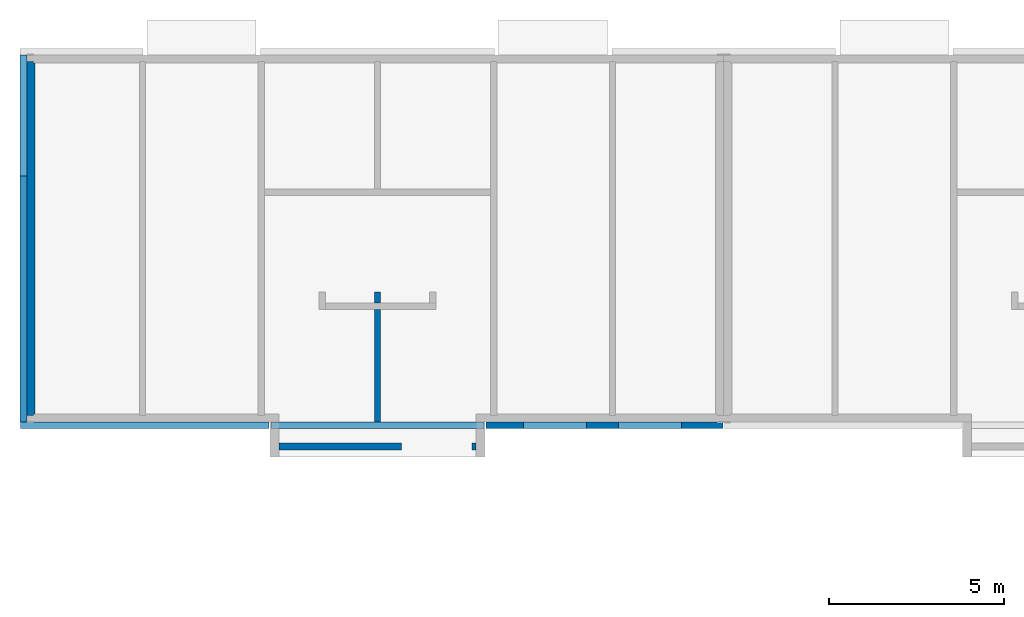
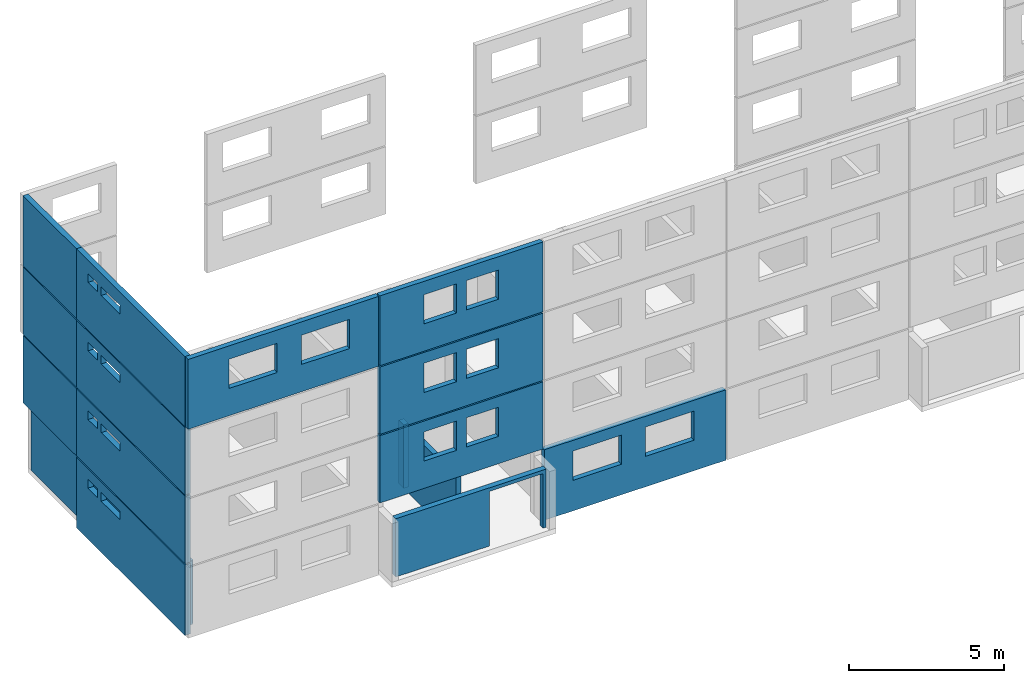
# One storey, part 8 of 15: 16 walls, 19 openings.
"""IFC2X3 building model written with IfcOpenShell, lengths in metres."""

from ifc_helpers import new_model, si_unit, frame, origin, place, context, project, spatial, faceted_brep, element, save


model = new_model("IFC2X3")

# Units and contexts
model_context = context("Model", 3, precision=1e-06, world=origin())
ifc_project = project(units=[si_unit("LENGTHUNIT", "METRE"), si_unit("PLANEANGLEUNIT", "RADIAN")], contexts=[model_context])

# Site, building, storey
site = spatial("IfcSite", under=ifc_project, CompositionType="ELEMENT")
building = spatial("IfcBuilding", under=site, CompositionType="ELEMENT")
storey = spatial("IfcBuildingStorey", under=building, Name="rdc", CompositionType="ELEMENT", Elevation=0.0)

# Walls
placement = place(None, origin())
wall_1_placement = place(placement, frame((10.075000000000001, 0.020038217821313, 0.0), z_axis=(0.0, 0.0, 1.0), x_axis=(0.0, 1.0, 0.0)))
element("IfcWall", 1, at=wall_1_placement, inside=storey, context=model_context, shape_type="Brep", body=[
    faceted_brep([(3.700039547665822, 0.18, 2.5), (3.700039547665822, 0.0, 2.5), (3.700039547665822, 0.0, 0.0), (3.700039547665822, 0.18, 0.0), (3.700039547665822, 0.0, 2.5), (3.380039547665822, 0.0, 2.5), (3.380039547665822, 0.0, 0.0), (3.700039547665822, 0.0, 0.0), (3.380039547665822, 0.0, 2.5), (3.380039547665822, 0.18, 2.5), (3.380039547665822, 0.18, 0.0), (3.380039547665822, 0.0, 0.0), (3.380039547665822, 0.18, 2.5), (3.700039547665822, 0.18, 2.5), (3.700039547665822, 0.18, 0.0), (3.380039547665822, 0.18, 0.0), (3.700039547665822, 0.18, 2.5), (3.380039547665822, 0.18, 2.5), (3.380039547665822, 0.0, 2.5), (3.700039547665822, 0.0, 2.5), (3.700039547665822, 0.18, 0.0), (3.700039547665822, 0.0, 0.0), (3.380039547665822, 0.0, 0.0), (3.380039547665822, 0.18, 0.0)], [[[0, 1, 2, 3]], [[4, 5, 6, 7]], [[8, 9, 10, 11]], [[12, 13, 14, 15]], [[16, 17, 18, 19]], [[20, 21, 22, 23]]]),
])
wall_2_placement = place(placement, frame((10.075000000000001, 0.020038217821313, 0.0), z_axis=(0.0, 0.0, 1.0), x_axis=(0.0, 1.0, 0.0)))
element("IfcWall", 2, at=wall_2_placement, inside=storey, context=model_context, shape_type="Brep", body=[
    faceted_brep([(3.200039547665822, 0.18, 2.5), (3.200039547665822, 0.0, 2.5), (3.200039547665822, 0.0, 0.0), (3.200039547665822, 0.18, 0.0), (3.200039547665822, 0.0, 2.5), (0.0, 0.0, 2.5), (0.0, 0.0, 0.0), (3.200039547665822, 0.0, 0.0), (0.0, 0.0, 2.5), (7.16957565e-07, 0.18, 2.5), (7.16957565e-07, 0.18, 0.0), (0.0, 0.0, 0.0), (7.16957565e-07, 0.18, 2.5), (3.200039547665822, 0.18, 2.5), (3.200039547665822, 0.18, 0.0), (7.16957565e-07, 0.18, 0.0), (3.200039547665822, 0.18, 2.5), (7.16957565e-07, 0.18, 2.5), (0.0, 0.0, 2.5), (3.200039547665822, 0.0, 2.5), (3.200039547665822, 0.18, 0.0), (3.200039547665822, 0.0, 0.0), (0.0, 0.0, 0.0), (7.16957565e-07, 0.18, 0.0)], [[[0, 1, 2, 3]], [[4, 5, 6, 7]], [[8, 9, 10, 11]], [[12, 13, 14, 15]], [[16, 17, 18, 19]], [[20, 21, 22, 23]]]),
])
wall_3_placement = place(placement, frame((-1.1e-14, 7.020077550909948, 5.325000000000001), z_axis=(0.0, 0.0, 1.0), x_axis=(0.0, 1.0, 0.0)))
element("IfcWall", 3, at=wall_3_placement, inside=storey, context=model_context, shape_type="Brep", body=[
    faceted_brep([(0.0, 0.0, 2.65), (0.0, 0.2, 2.65), (0.0, 0.2, 0.0), (0.0, 0.0, 0.0), (0.0, 0.2, 2.65), (3.450000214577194, 0.2, 2.65), (3.450000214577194, 0.2, 0.0), (0.0, 0.2, 0.0), (3.450000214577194, 0.2, 2.65), (3.450000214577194, 0.0, 2.65), (3.450000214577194, 0.0, 0.0), (3.450000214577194, 0.2, 0.0), (3.450000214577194, 0.0, 2.65), (0.0, 0.0, 2.65), (0.0, 0.0, 0.0), (3.450000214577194, 0.0, 0.0), (0.0, 0.0, 2.65), (3.450000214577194, 0.0, 2.65), (3.450000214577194, 0.2, 2.65), (0.0, 0.2, 2.65), (0.0, 0.0, 0.0), (0.0, 0.2, 0.0), (3.450000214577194, 0.2, 0.0), (3.450000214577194, 0.0, 0.0)], [[[0, 1, 2, 3]], [[4, 5, 6, 7]], [[8, 9, 10, 11]], [[12, 13, 14, 15]], [[16, 17, 18, 19]], [[20, 21, 22, 23]]]),
])

# Wall, openings
wall_4_placement = place(placement, frame((-1.1e-14, 0.020077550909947, 5.325000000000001), z_axis=(0.0, 0.0, 1.0), x_axis=(0.0, 1.0, 0.0)))
wall_4 = element("IfcWall", 4, at=wall_4_placement, inside=storey, context=model_context, shape_type="Brep", body=[
    faceted_brep([(0.0, 0.0, 2.65), (0.0, 0.2, 2.65), (0.0, 0.2, 0.0), (0.0, 0.0, 0.0), (0.0, 0.2, 2.65), (7.0, 0.2, 2.65), (7.0, 0.2, 0.0), (0.0, 0.2, 0.0), (7.0, 0.2, 2.65), (7.0, 0.0, 2.65), (7.0, 0.0, 0.0), (7.0, 0.2, 0.0), (7.0, 0.0, 2.65), (0.0, 0.0, 2.65), (0.0, 0.0, 0.0), (7.0, 0.0, 0.0), (0.0, 0.0, 2.65), (7.0, 0.0, 2.65), (7.0, 0.2, 2.65), (0.0, 0.2, 2.65), (0.0, 0.0, 0.0), (0.0, 0.2, 0.0), (7.0, 0.2, 0.0), (7.0, 0.0, 0.0)], [[[0, 1, 2, 3]], [[4, 5, 6, 7]], [[8, 9, 10, 11]], [[12, 13, 14, 15]], [[16, 17, 18, 19]], [[20, 21, 22, 23]]]),
])
opening_1_placement = place(placement, frame((-0.20000000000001, 5.420077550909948, 7.210000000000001), z_axis=(0.0, 0.0, 1.0), x_axis=(0.0, -1.0, 0.0)))
element("IfcOpeningElement", 5, at=opening_1_placement, cuts=wall_4, Name="Opening", context=model_context, shape_type="Brep", body=[
    faceted_brep([(0.0, 0.2, 0.0), (1.2, 0.2, 0.0), (1.2, 0.0, 0.0), (0.0, 0.0, 0.0), (1.2, 0.0, 0.34), (1.2, 0.2, 0.34), (0.0, 0.2, 0.34), (0.0, 0.0, 0.34), (0.0, 0.2, 0.0), (0.0, 0.0, 0.0), (0.0, 0.0, 0.34), (0.0, 0.2, 0.34), (1.2, 0.2, 0.0), (0.0, 0.2, 0.0), (0.0, 0.2, 0.34), (1.2, 0.2, 0.34), (1.2, 0.0, 0.0), (1.2, 0.2, 0.0), (1.2, 0.2, 0.34), (1.2, 0.0, 0.34), (0.0, 0.0, 0.0), (1.2, 0.0, 0.0), (1.2, 0.0, 0.34), (0.0, 0.0, 0.34)], [[[0, 1, 2, 3]], [[4, 5, 6, 7]], [[8, 9, 10, 11]], [[12, 13, 14, 15]], [[16, 17, 18, 19]], [[20, 21, 22, 23]]]),
])
opening_2_placement = place(placement, frame((-0.20000000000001, 6.270077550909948, 7.210000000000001), z_axis=(0.0, 0.0, 1.0), x_axis=(0.0, -1.0, 0.0)))
element("IfcOpeningElement", 6, at=opening_2_placement, cuts=wall_4, Name="Opening", context=model_context, shape_type="Brep", body=[
    faceted_brep([(0.0, 0.2, 0.0), (0.6, 0.2, 0.0), (0.6, 0.0, 0.0), (0.0, 0.0, 0.0), (0.6, 0.0, 0.34), (0.6, 0.2, 0.34), (0.0, 0.2, 0.34), (0.0, 0.0, 0.34), (0.0, 0.2, 0.0), (0.0, 0.0, 0.0), (0.0, 0.0, 0.34), (0.0, 0.2, 0.34), (0.6, 0.2, 0.0), (0.0, 0.2, 0.0), (0.0, 0.2, 0.34), (0.6, 0.2, 0.34), (0.6, 0.0, 0.0), (0.6, 0.2, 0.0), (0.6, 0.2, 0.34), (0.6, 0.0, 0.34), (0.0, 0.0, 0.0), (0.6, 0.0, 0.0), (0.6, 0.0, 0.34), (0.0, 0.0, 0.34)], [[[0, 1, 2, 3]], [[4, 5, 6, 7]], [[8, 9, 10, 11]], [[12, 13, 14, 15]], [[16, 17, 18, 19]], [[20, 21, 22, 23]]]),
])

wall_5_placement = place(placement, frame((6.949999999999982, -0.166922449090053, 2.625000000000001), z_axis=(0.0, 0.0, 1.0), x_axis=(1.0, 0.0, 0.0)))
wall_5 = element("IfcWall", 7, at=wall_5_placement, inside=storey, Name="rdc2", context=model_context, shape_type="Brep", body=[
    faceted_brep([(0.0, 0.0, 2.65), (0.0, 0.187, 2.65), (0.0, 0.187, 0.0), (0.0, 0.0, 0.0), (0.0, 0.187, 2.65), (6.070000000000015, 0.187, 2.65), (6.070000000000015, 0.187, 0.0), (0.0, 0.187, 0.0), (6.070000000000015, 0.187, 2.65), (6.070000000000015, 0.0, 2.65), (6.070000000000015, 0.0, 0.0), (6.070000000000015, 0.187, 0.0), (6.070000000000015, 0.0, 2.65), (0.0, 0.0, 2.65), (0.0, 0.0, 0.0), (6.070000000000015, 0.0, 0.0), (0.0, 0.0, 2.65), (6.070000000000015, 0.0, 2.65), (6.070000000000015, 0.187, 2.65), (0.0, 0.187, 2.65), (0.0, 0.0, 0.0), (0.0, 0.187, 0.0), (6.070000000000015, 0.187, 0.0), (6.070000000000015, 0.0, 0.0)], [[[0, 1, 2, 3]], [[4, 5, 6, 7]], [[8, 9, 10, 11]], [[12, 13, 14, 15]], [[16, 17, 18, 19]], [[20, 21, 22, 23]]]),
])
opening_3_placement = place(placement, frame((8.59999999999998, -0.166922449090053, 3.700000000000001), z_axis=(0.0, 0.0, 1.0), x_axis=(1.0, 0.0, 0.0)))
element("IfcOpeningElement", 8, at=opening_3_placement, cuts=wall_5, Name="Opening", context=model_context, shape_type="Brep", body=[
    faceted_brep([(0.0, 0.187, 0.0), (1.2, 0.187, 0.0), (1.2, 0.0, 0.0), (0.0, 0.0, 0.0), (1.2, 0.0, 1.15), (1.2, 0.187, 1.15), (0.0, 0.187, 1.15), (0.0, 0.0, 1.15), (0.0, 0.187, 0.0), (0.0, 0.0, 0.0), (0.0, 0.0, 1.15), (0.0, 0.187, 1.15), (1.2, 0.187, 0.0), (0.0, 0.187, 0.0), (0.0, 0.187, 1.15), (1.2, 0.187, 1.15), (1.2, 0.0, 0.0), (1.2, 0.187, 0.0), (1.2, 0.187, 1.15), (1.2, 0.0, 1.15), (0.0, 0.0, 0.0), (1.2, 0.0, 0.0), (1.2, 0.0, 1.15), (0.0, 0.0, 1.15)], [[[0, 1, 2, 3]], [[4, 5, 6, 7]], [[8, 9, 10, 11]], [[12, 13, 14, 15]], [[16, 17, 18, 19]], [[20, 21, 22, 23]]]),
])
opening_4_placement = place(placement, frame((10.169999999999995, -0.166922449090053, 3.700000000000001), z_axis=(0.0, 0.0, 1.0), x_axis=(1.0, 0.0, 0.0)))
element("IfcOpeningElement", 9, at=opening_4_placement, cuts=wall_5, Name="Opening", context=model_context, shape_type="Brep", body=[
    faceted_brep([(0.0, 0.187, 0.0), (1.2, 0.187, 0.0), (1.2, 0.0, 0.0), (0.0, 0.0, 0.0), (1.2, 0.0, 1.15), (1.2, 0.187, 1.15), (0.0, 0.187, 1.15), (0.0, 0.0, 1.15), (0.0, 0.187, 0.0), (0.0, 0.0, 0.0), (0.0, 0.0, 1.15), (0.0, 0.187, 1.15), (1.2, 0.187, 0.0), (0.0, 0.187, 0.0), (0.0, 0.187, 1.15), (1.2, 0.187, 1.15), (1.2, 0.0, 0.0), (1.2, 0.187, 0.0), (1.2, 0.187, 1.15), (1.2, 0.0, 1.15), (0.0, 0.0, 0.0), (1.2, 0.0, 0.0), (1.2, 0.0, 1.15), (0.0, 0.0, 1.15)], [[[0, 1, 2, 3]], [[4, 5, 6, 7]], [[8, 9, 10, 11]], [[12, 13, 14, 15]], [[16, 17, 18, 19]], [[20, 21, 22, 23]]]),
])

# Wall, opening
wall_6_placement = place(placement, frame((7.184999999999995, -0.77992223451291, 0.0), z_axis=(0.0, 0.0, 1.0), x_axis=(1.0, 0.0, 0.0)))
wall_6 = element("IfcWall", 10, at=wall_6_placement, inside=storey, Name="rdc entrée", context=model_context, shape_type="Brep", body=[
    faceted_brep([(0.0, 0.0, 2.290000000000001), (0.0, 0.2, 2.290000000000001), (0.0, 0.2, 0.0), (0.0, 0.0, 0.0), (0.0, 0.2, 2.290000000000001), (5.600000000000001, 0.2, 2.290000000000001), (5.600000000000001, 0.2, 0.0), (0.0, 0.2, 0.0), (5.600000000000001, 0.2, 2.290000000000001), (5.600000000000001, 0.0, 2.290000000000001), (5.600000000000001, 0.0, 0.0), (5.600000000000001, 0.2, 0.0), (5.600000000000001, 0.0, 2.290000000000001), (0.0, 0.0, 2.290000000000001), (0.0, 0.0, 0.0), (5.600000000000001, 0.0, 0.0), (0.0, 0.0, 2.290000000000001), (5.600000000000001, 0.0, 2.290000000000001), (5.600000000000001, 0.2, 2.290000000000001), (0.0, 0.2, 2.290000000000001), (0.0, 0.0, 0.0), (0.0, 0.2, 0.0), (5.600000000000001, 0.2, 0.0), (5.600000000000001, 0.0, 0.0)], [[[0, 1, 2, 3]], [[4, 5, 6, 7]], [[8, 9, 10, 11]], [[12, 13, 14, 15]], [[16, 17, 18, 19]], [[20, 21, 22, 23]]]),
])
opening_5_placement = place(placement, frame((10.674999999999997, -0.77992223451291, 0.0), z_axis=(0.0, 0.0, 1.0), x_axis=(1.0, 0.0, 0.0)))
element("IfcOpeningElement", 11, at=opening_5_placement, cuts=wall_6, Name="Opening", context=model_context, shape_type="Brep", body=[
    faceted_brep([(0.0, 0.2, 0.0), (2.0, 0.2, 0.0), (2.0, 0.0, 0.0), (0.0, 0.0, 0.0), (2.0, 0.0, 2.15), (2.0, 0.2, 2.15), (0.0, 0.2, 2.15), (0.0, 0.0, 2.15), (0.0, 0.2, 0.0), (0.0, 0.0, 0.0), (0.0, 0.0, 2.15), (0.0, 0.2, 2.15), (2.0, 0.2, 0.0), (0.0, 0.2, 0.0), (0.0, 0.2, 2.15), (2.0, 0.2, 2.15), (2.0, 0.0, 0.0), (2.0, 0.2, 0.0), (2.0, 0.2, 2.15), (2.0, 0.0, 2.15), (0.0, 0.0, 0.0), (2.0, 0.0, 0.0), (2.0, 0.0, 2.15), (0.0, 0.0, 2.15)], [[[0, 1, 2, 3]], [[4, 5, 6, 7]], [[8, 9, 10, 11]], [[12, 13, 14, 15]], [[16, 17, 18, 19]], [[20, 21, 22, 23]]]),
])

# Wall, openings
wall_7_placement = place(placement, frame((6.949999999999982, -0.166922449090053, 5.325000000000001), z_axis=(0.0, 0.0, 1.0), x_axis=(1.0, 0.0, 0.0)))
wall_7 = element("IfcWall", 12, at=wall_7_placement, inside=storey, Name="rdc2", context=model_context, shape_type="Brep", body=[
    faceted_brep([(0.0, 0.0, 2.65), (0.0, 0.187, 2.65), (0.0, 0.187, 0.0), (0.0, 0.0, 0.0), (0.0, 0.187, 2.65), (6.070000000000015, 0.187, 2.65), (6.070000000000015, 0.187, 0.0), (0.0, 0.187, 0.0), (6.070000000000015, 0.187, 2.65), (6.070000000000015, 0.0, 2.65), (6.070000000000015, 0.0, 0.0), (6.070000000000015, 0.187, 0.0), (6.070000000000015, 0.0, 2.65), (0.0, 0.0, 2.65), (0.0, 0.0, 0.0), (6.070000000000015, 0.0, 0.0), (0.0, 0.0, 2.65), (6.070000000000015, 0.0, 2.65), (6.070000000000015, 0.187, 2.65), (0.0, 0.187, 2.65), (0.0, 0.0, 0.0), (0.0, 0.187, 0.0), (6.070000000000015, 0.187, 0.0), (6.070000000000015, 0.0, 0.0)], [[[0, 1, 2, 3]], [[4, 5, 6, 7]], [[8, 9, 10, 11]], [[12, 13, 14, 15]], [[16, 17, 18, 19]], [[20, 21, 22, 23]]]),
])
opening_6_placement = place(placement, frame((8.59999999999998, -0.166922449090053, 6.400000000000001), z_axis=(0.0, 0.0, 1.0), x_axis=(1.0, 0.0, 0.0)))
element("IfcOpeningElement", 13, at=opening_6_placement, cuts=wall_7, Name="Opening", context=model_context, shape_type="Brep", body=[
    faceted_brep([(0.0, 0.187, 0.0), (1.2, 0.187, 0.0), (1.2, 0.0, 0.0), (0.0, 0.0, 0.0), (1.2, 0.0, 1.15), (1.2, 0.187, 1.15), (0.0, 0.187, 1.15), (0.0, 0.0, 1.15), (0.0, 0.187, 0.0), (0.0, 0.0, 0.0), (0.0, 0.0, 1.15), (0.0, 0.187, 1.15), (1.2, 0.187, 0.0), (0.0, 0.187, 0.0), (0.0, 0.187, 1.15), (1.2, 0.187, 1.15), (1.2, 0.0, 0.0), (1.2, 0.187, 0.0), (1.2, 0.187, 1.15), (1.2, 0.0, 1.15), (0.0, 0.0, 0.0), (1.2, 0.0, 0.0), (1.2, 0.0, 1.15), (0.0, 0.0, 1.15)], [[[0, 1, 2, 3]], [[4, 5, 6, 7]], [[8, 9, 10, 11]], [[12, 13, 14, 15]], [[16, 17, 18, 19]], [[20, 21, 22, 23]]]),
])
opening_7_placement = place(placement, frame((10.169999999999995, -0.166922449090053, 6.400000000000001), z_axis=(0.0, 0.0, 1.0), x_axis=(1.0, 0.0, 0.0)))
element("IfcOpeningElement", 14, at=opening_7_placement, cuts=wall_7, Name="Opening", context=model_context, shape_type="Brep", body=[
    faceted_brep([(0.0, 0.187, 0.0), (1.2, 0.187, 0.0), (1.2, 0.0, 0.0), (0.0, 0.0, 0.0), (1.2, 0.0, 1.15), (1.2, 0.187, 1.15), (0.0, 0.187, 1.15), (0.0, 0.0, 1.15), (0.0, 0.187, 0.0), (0.0, 0.0, 0.0), (0.0, 0.0, 1.15), (0.0, 0.187, 1.15), (1.2, 0.187, 0.0), (0.0, 0.187, 0.0), (0.0, 0.187, 1.15), (1.2, 0.187, 1.15), (1.2, 0.0, 0.0), (1.2, 0.187, 0.0), (1.2, 0.187, 1.15), (1.2, 0.0, 1.15), (0.0, 0.0, 0.0), (1.2, 0.0, 0.0), (1.2, 0.0, 1.15), (0.0, 0.0, 1.15)], [[[0, 1, 2, 3]], [[4, 5, 6, 7]], [[8, 9, 10, 11]], [[12, 13, 14, 15]], [[16, 17, 18, 19]], [[20, 21, 22, 23]]]),
])

wall_8_placement = place(placement, frame((-1.1e-14, 0.020077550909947, -0.199999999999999), z_axis=(0.0, 0.0, 1.0), x_axis=(0.0, 1.0, 0.0)))
wall_8 = element("IfcWall", 15, at=wall_8_placement, inside=storey, context=model_context, shape_type="Brep", body=[
    faceted_brep([(0.0, 0.0, 2.775), (0.0, 0.2, 2.775), (0.0, 0.2, 0.0), (0.0, 0.0, 0.0), (0.0, 0.2, 2.775), (7.0, 0.2, 2.775), (7.0, 0.2, 0.0), (0.0, 0.2, 0.0), (7.0, 0.2, 2.775), (7.0, 0.0, 2.775), (7.0, 0.0, 0.0), (7.0, 0.2, 0.0), (7.0, 0.0, 2.775), (0.0, 0.0, 2.775), (0.0, 0.0, 0.0), (7.0, 0.0, 0.0), (0.0, 0.0, 2.775), (7.0, 0.0, 2.775), (7.0, 0.2, 2.775), (0.0, 0.2, 2.775), (0.0, 0.0, 0.0), (0.0, 0.2, 0.0), (7.0, 0.2, 0.0), (7.0, 0.0, 0.0)], [[[0, 1, 2, 3]], [[4, 5, 6, 7]], [[8, 9, 10, 11]], [[12, 13, 14, 15]], [[16, 17, 18, 19]], [[20, 21, 22, 23]]]),
])
opening_8_placement = place(placement, frame((-0.20000000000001, 5.420077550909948, 1.810000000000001), z_axis=(0.0, 0.0, 1.0), x_axis=(0.0, -1.0, 0.0)))
element("IfcOpeningElement", 16, at=opening_8_placement, cuts=wall_8, Name="Opening", context=model_context, shape_type="Brep", body=[
    faceted_brep([(0.0, 0.2, 0.0), (1.2, 0.2, 0.0), (1.2, 0.0, 0.0), (0.0, 0.0, 0.0), (1.2, 0.0, 0.34), (1.2, 0.2, 0.34), (0.0, 0.2, 0.34), (0.0, 0.0, 0.34), (0.0, 0.2, 0.0), (0.0, 0.0, 0.0), (0.0, 0.0, 0.34), (0.0, 0.2, 0.34), (1.2, 0.2, 0.0), (0.0, 0.2, 0.0), (0.0, 0.2, 0.34), (1.2, 0.2, 0.34), (1.2, 0.0, 0.0), (1.2, 0.2, 0.0), (1.2, 0.2, 0.34), (1.2, 0.0, 0.34), (0.0, 0.0, 0.0), (1.2, 0.0, 0.0), (1.2, 0.0, 0.34), (0.0, 0.0, 0.34)], [[[0, 1, 2, 3]], [[4, 5, 6, 7]], [[8, 9, 10, 11]], [[12, 13, 14, 15]], [[16, 17, 18, 19]], [[20, 21, 22, 23]]]),
])
opening_9_placement = place(placement, frame((-0.20000000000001, 6.270077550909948, 1.810000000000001), z_axis=(0.0, 0.0, 1.0), x_axis=(0.0, -1.0, 0.0)))
element("IfcOpeningElement", 17, at=opening_9_placement, cuts=wall_8, Name="Opening", context=model_context, shape_type="Brep", body=[
    faceted_brep([(0.0, 0.2, 0.0), (0.6, 0.2, 0.0), (0.6, 0.0, 0.0), (0.0, 0.0, 0.0), (0.6, 0.0, 0.34), (0.6, 0.2, 0.34), (0.0, 0.2, 0.34), (0.0, 0.0, 0.34), (0.0, 0.2, 0.0), (0.0, 0.0, 0.0), (0.0, 0.0, 0.34), (0.0, 0.2, 0.34), (0.6, 0.2, 0.0), (0.0, 0.2, 0.0), (0.0, 0.2, 0.34), (0.6, 0.2, 0.34), (0.6, 0.0, 0.0), (0.6, 0.2, 0.0), (0.6, 0.2, 0.34), (0.6, 0.0, 0.34), (0.0, 0.0, 0.0), (0.6, 0.0, 0.0), (0.6, 0.0, 0.34), (0.0, 0.0, 0.34)], [[[0, 1, 2, 3]], [[4, 5, 6, 7]], [[8, 9, 10, 11]], [[12, 13, 14, 15]], [[16, 17, 18, 19]], [[20, 21, 22, 23]]]),
])

wall_9_placement = place(placement, frame((6.949999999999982, -0.166922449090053, 8.025000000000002), z_axis=(0.0, 0.0, 1.0), x_axis=(1.0, 0.0, 0.0)))
wall_9 = element("IfcWall", 18, at=wall_9_placement, inside=storey, Name="rdc2", context=model_context, shape_type="Brep", body=[
    faceted_brep([(0.0, 0.0, 2.75), (0.0, 0.187, 2.75), (0.0, 0.187, 0.0), (0.0, 0.0, 0.0), (0.0, 0.187, 2.75), (6.070000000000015, 0.187, 2.75), (6.070000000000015, 0.187, 0.0), (0.0, 0.187, 0.0), (6.070000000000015, 0.187, 2.75), (6.070000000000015, 0.0, 2.75), (6.070000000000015, 0.0, 0.0), (6.070000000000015, 0.187, 0.0), (6.070000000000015, 0.0, 2.75), (0.0, 0.0, 2.75), (0.0, 0.0, 0.0), (6.070000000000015, 0.0, 0.0), (0.0, 0.0, 2.75), (6.070000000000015, 0.0, 2.75), (6.070000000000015, 0.187, 2.75), (0.0, 0.187, 2.75), (0.0, 0.0, 0.0), (0.0, 0.187, 0.0), (6.070000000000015, 0.187, 0.0), (6.070000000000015, 0.0, 0.0)], [[[0, 1, 2, 3]], [[4, 5, 6, 7]], [[8, 9, 10, 11]], [[12, 13, 14, 15]], [[16, 17, 18, 19]], [[20, 21, 22, 23]]]),
])
opening_10_placement = place(placement, frame((10.169999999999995, -0.166922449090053, 9.100000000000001), z_axis=(0.0, 0.0, 1.0), x_axis=(1.0, 0.0, 0.0)))
element("IfcOpeningElement", 19, at=opening_10_placement, cuts=wall_9, Name="Opening", context=model_context, shape_type="Brep", body=[
    faceted_brep([(0.0, 0.187, 0.0), (1.2, 0.187, 0.0), (1.2, 0.0, 0.0), (0.0, 0.0, 0.0), (1.2, 0.0, 1.15), (1.2, 0.187, 1.15), (0.0, 0.187, 1.15), (0.0, 0.0, 1.15), (0.0, 0.187, 0.0), (0.0, 0.0, 0.0), (0.0, 0.0, 1.15), (0.0, 0.187, 1.15), (1.2, 0.187, 0.0), (0.0, 0.187, 0.0), (0.0, 0.187, 1.15), (1.2, 0.187, 1.15), (1.2, 0.0, 0.0), (1.2, 0.187, 0.0), (1.2, 0.187, 1.15), (1.2, 0.0, 1.15), (0.0, 0.0, 0.0), (1.2, 0.0, 0.0), (1.2, 0.0, 1.15), (0.0, 0.0, 1.15)], [[[0, 1, 2, 3]], [[4, 5, 6, 7]], [[8, 9, 10, 11]], [[12, 13, 14, 15]], [[16, 17, 18, 19]], [[20, 21, 22, 23]]]),
])
opening_11_placement = place(placement, frame((8.59999999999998, -0.166922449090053, 9.100000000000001), z_axis=(0.0, 0.0, 1.0), x_axis=(1.0, 0.0, 0.0)))
element("IfcOpeningElement", 20, at=opening_11_placement, cuts=wall_9, Name="Opening", context=model_context, shape_type="Brep", body=[
    faceted_brep([(0.0, 0.187, 0.0), (1.2, 0.187, 0.0), (1.2, 0.0, 0.0), (0.0, 0.0, 0.0), (1.2, 0.0, 1.15), (1.2, 0.187, 1.15), (0.0, 0.187, 1.15), (0.0, 0.0, 1.15), (0.0, 0.187, 0.0), (0.0, 0.0, 0.0), (0.0, 0.0, 1.15), (0.0, 0.187, 1.15), (1.2, 0.187, 0.0), (0.0, 0.187, 0.0), (0.0, 0.187, 1.15), (1.2, 0.187, 1.15), (1.2, 0.0, 0.0), (1.2, 0.187, 0.0), (1.2, 0.187, 1.15), (1.2, 0.0, 1.15), (0.0, 0.0, 0.0), (1.2, 0.0, 0.0), (1.2, 0.0, 1.15), (0.0, 0.0, 1.15)], [[[0, 1, 2, 3]], [[4, 5, 6, 7]], [[8, 9, 10, 11]], [[12, 13, 14, 15]], [[16, 17, 18, 19]], [[20, 21, 22, 23]]]),
])

wall_10_placement = place(placement, frame((-1.1e-14, 0.020077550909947, 2.625000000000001), z_axis=(0.0, 0.0, 1.0), x_axis=(0.0, 1.0, 0.0)))
wall_10 = element("IfcWall", 21, at=wall_10_placement, inside=storey, context=model_context, shape_type="Brep", body=[
    faceted_brep([(0.0, 0.0, 2.65), (0.0, 0.2, 2.65), (0.0, 0.2, 0.0), (0.0, 0.0, 0.0), (0.0, 0.2, 2.65), (7.0, 0.2, 2.65), (7.0, 0.2, 0.0), (0.0, 0.2, 0.0), (7.0, 0.2, 2.65), (7.0, 0.0, 2.65), (7.0, 0.0, 0.0), (7.0, 0.2, 0.0), (7.0, 0.0, 2.65), (0.0, 0.0, 2.65), (0.0, 0.0, 0.0), (7.0, 0.0, 0.0), (0.0, 0.0, 2.65), (7.0, 0.0, 2.65), (7.0, 0.2, 2.65), (0.0, 0.2, 2.65), (0.0, 0.0, 0.0), (0.0, 0.2, 0.0), (7.0, 0.2, 0.0), (7.0, 0.0, 0.0)], [[[0, 1, 2, 3]], [[4, 5, 6, 7]], [[8, 9, 10, 11]], [[12, 13, 14, 15]], [[16, 17, 18, 19]], [[20, 21, 22, 23]]]),
])
opening_12_placement = place(placement, frame((-0.20000000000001, 5.420077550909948, 4.510000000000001), z_axis=(0.0, 0.0, 1.0), x_axis=(0.0, -1.0, 0.0)))
element("IfcOpeningElement", 22, at=opening_12_placement, cuts=wall_10, Name="Opening", context=model_context, shape_type="Brep", body=[
    faceted_brep([(0.0, 0.2, 0.0), (1.2, 0.2, 0.0), (1.2, 0.0, 0.0), (0.0, 0.0, 0.0), (1.2, 0.0, 0.34), (1.2, 0.2, 0.34), (0.0, 0.2, 0.34), (0.0, 0.0, 0.34), (0.0, 0.2, 0.0), (0.0, 0.0, 0.0), (0.0, 0.0, 0.34), (0.0, 0.2, 0.34), (1.2, 0.2, 0.0), (0.0, 0.2, 0.0), (0.0, 0.2, 0.34), (1.2, 0.2, 0.34), (1.2, 0.0, 0.0), (1.2, 0.2, 0.0), (1.2, 0.2, 0.34), (1.2, 0.0, 0.34), (0.0, 0.0, 0.0), (1.2, 0.0, 0.0), (1.2, 0.0, 0.34), (0.0, 0.0, 0.34)], [[[0, 1, 2, 3]], [[4, 5, 6, 7]], [[8, 9, 10, 11]], [[12, 13, 14, 15]], [[16, 17, 18, 19]], [[20, 21, 22, 23]]]),
])
opening_13_placement = place(placement, frame((-0.20000000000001, 6.270077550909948, 4.510000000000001), z_axis=(0.0, 0.0, 1.0), x_axis=(0.0, -1.0, 0.0)))
element("IfcOpeningElement", 23, at=opening_13_placement, cuts=wall_10, Name="Opening", context=model_context, shape_type="Brep", body=[
    faceted_brep([(0.0, 0.2, 0.0), (0.6, 0.2, 0.0), (0.6, 0.0, 0.0), (0.0, 0.0, 0.0), (0.6, 0.0, 0.34), (0.6, 0.2, 0.34), (0.0, 0.2, 0.34), (0.0, 0.0, 0.34), (0.0, 0.2, 0.0), (0.0, 0.0, 0.0), (0.0, 0.0, 0.34), (0.0, 0.2, 0.34), (0.6, 0.2, 0.0), (0.0, 0.2, 0.0), (0.0, 0.2, 0.34), (0.6, 0.2, 0.34), (0.6, 0.0, 0.0), (0.6, 0.2, 0.0), (0.6, 0.2, 0.34), (0.6, 0.0, 0.34), (0.0, 0.0, 0.0), (0.6, 0.0, 0.0), (0.6, 0.0, 0.34), (0.0, 0.0, 0.34)], [[[0, 1, 2, 3]], [[4, 5, 6, 7]], [[8, 9, 10, 11]], [[12, 13, 14, 15]], [[16, 17, 18, 19]], [[20, 21, 22, 23]]]),
])

# Wall
wall_11_placement = place(placement, frame((-1.1e-14, 7.020077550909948, 2.625000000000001), z_axis=(0.0, 0.0, 1.0), x_axis=(0.0, 1.0, 0.0)))
element("IfcWall", 24, at=wall_11_placement, inside=storey, context=model_context, shape_type="Brep", body=[
    faceted_brep([(0.0, 0.0, 2.65), (0.0, 0.2, 2.65), (0.0, 0.2, 0.0), (0.0, 0.0, 0.0), (0.0, 0.2, 2.65), (3.450000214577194, 0.2, 2.65), (3.450000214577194, 0.2, 0.0), (0.0, 0.2, 0.0), (3.450000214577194, 0.2, 2.65), (3.450000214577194, 0.0, 2.65), (3.450000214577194, 0.0, 0.0), (3.450000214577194, 0.2, 0.0), (3.450000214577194, 0.0, 2.65), (0.0, 0.0, 2.65), (0.0, 0.0, 0.0), (3.450000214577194, 0.0, 0.0), (0.0, 0.0, 2.65), (3.450000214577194, 0.0, 2.65), (3.450000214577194, 0.2, 2.65), (0.0, 0.2, 2.65), (0.0, 0.0, 0.0), (0.0, 0.2, 0.0), (3.450000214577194, 0.2, 0.0), (3.450000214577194, 0.0, 0.0)], [[[0, 1, 2, 3]], [[4, 5, 6, 7]], [[8, 9, 10, 11]], [[12, 13, 14, 15]], [[16, 17, 18, 19]], [[20, 21, 22, 23]]]),
])

# Wall, openings
wall_12_placement = place(placement, frame((-1.1e-14, 0.020077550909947, 8.025000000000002), z_axis=(0.0, 0.0, 1.0), x_axis=(0.0, 1.0, 0.0)))
wall_12 = element("IfcWall", 25, at=wall_12_placement, inside=storey, context=model_context, shape_type="Brep", body=[
    faceted_brep([(0.0, 0.0, 2.75), (0.0, 0.2, 2.75), (0.0, 0.2, 0.0), (0.0, 0.0, 0.0), (0.0, 0.2, 2.75), (7.0, 0.2, 2.75), (7.0, 0.2, 0.0), (0.0, 0.2, 0.0), (7.0, 0.2, 2.75), (7.0, 0.0, 2.75), (7.0, 0.0, 0.0), (7.0, 0.2, 0.0), (7.0, 0.0, 2.75), (0.0, 0.0, 2.75), (0.0, 0.0, 0.0), (7.0, 0.0, 0.0), (0.0, 0.0, 2.75), (7.0, 0.0, 2.75), (7.0, 0.2, 2.75), (0.0, 0.2, 2.75), (0.0, 0.0, 0.0), (0.0, 0.2, 0.0), (7.0, 0.2, 0.0), (7.0, 0.0, 0.0)], [[[0, 1, 2, 3]], [[4, 5, 6, 7]], [[8, 9, 10, 11]], [[12, 13, 14, 15]], [[16, 17, 18, 19]], [[20, 21, 22, 23]]]),
])
opening_14_placement = place(placement, frame((-0.20000000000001, 6.270077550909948, 9.910000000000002), z_axis=(0.0, 0.0, 1.0), x_axis=(0.0, -1.0, 0.0)))
element("IfcOpeningElement", 26, at=opening_14_placement, cuts=wall_12, Name="Opening", context=model_context, shape_type="Brep", body=[
    faceted_brep([(0.0, 0.2, 0.0), (0.6, 0.2, 0.0), (0.6, 0.0, 0.0), (0.0, 0.0, 0.0), (0.6, 0.0, 0.34), (0.6, 0.2, 0.34), (0.0, 0.2, 0.34), (0.0, 0.0, 0.34), (0.0, 0.2, 0.0), (0.0, 0.0, 0.0), (0.0, 0.0, 0.34), (0.0, 0.2, 0.34), (0.6, 0.2, 0.0), (0.0, 0.2, 0.0), (0.0, 0.2, 0.34), (0.6, 0.2, 0.34), (0.6, 0.0, 0.0), (0.6, 0.2, 0.0), (0.6, 0.2, 0.34), (0.6, 0.0, 0.34), (0.0, 0.0, 0.0), (0.6, 0.0, 0.0), (0.6, 0.0, 0.34), (0.0, 0.0, 0.34)], [[[0, 1, 2, 3]], [[4, 5, 6, 7]], [[8, 9, 10, 11]], [[12, 13, 14, 15]], [[16, 17, 18, 19]], [[20, 21, 22, 23]]]),
])
opening_15_placement = place(placement, frame((-0.20000000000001, 5.420077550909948, 9.910000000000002), z_axis=(0.0, 0.0, 1.0), x_axis=(0.0, -1.0, 0.0)))
element("IfcOpeningElement", 27, at=opening_15_placement, cuts=wall_12, Name="Opening", context=model_context, shape_type="Brep", body=[
    faceted_brep([(0.0, 0.2, 0.0), (1.2, 0.2, 0.0), (1.2, 0.0, 0.0), (0.0, 0.0, 0.0), (1.2, 0.0, 0.34), (1.2, 0.2, 0.34), (0.0, 0.2, 0.34), (0.0, 0.0, 0.34), (0.0, 0.2, 0.0), (0.0, 0.0, 0.0), (0.0, 0.0, 0.34), (0.0, 0.2, 0.34), (1.2, 0.2, 0.0), (0.0, 0.2, 0.0), (0.0, 0.2, 0.34), (1.2, 0.2, 0.34), (1.2, 0.0, 0.0), (1.2, 0.2, 0.0), (1.2, 0.2, 0.34), (1.2, 0.0, 0.34), (0.0, 0.0, 0.0), (1.2, 0.0, 0.0), (1.2, 0.0, 0.34), (0.0, 0.0, 0.34)], [[[0, 1, 2, 3]], [[4, 5, 6, 7]], [[8, 9, 10, 11]], [[12, 13, 14, 15]], [[16, 17, 18, 19]], [[20, 21, 22, 23]]]),
])

# Walls
wall_13_placement = place(placement, frame((-1.1e-14, 7.020077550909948, 8.025000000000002), z_axis=(0.0, 0.0, 1.0), x_axis=(0.0, 1.0, 0.0)))
element("IfcWall", 28, at=wall_13_placement, inside=storey, context=model_context, shape_type="Brep", body=[
    faceted_brep([(0.0, 0.0, 2.749999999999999), (0.0, 0.2, 2.749999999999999), (0.0, 0.2, 0.0), (0.0, 0.0, 0.0), (0.0, 0.2, 2.749999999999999), (3.450000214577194, 0.2, 2.749999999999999), (3.450000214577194, 0.2, 0.0), (0.0, 0.2, 0.0), (3.450000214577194, 0.2, 2.749999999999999), (3.450000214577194, 0.0, 2.749999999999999), (3.450000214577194, 0.0, 0.0), (3.450000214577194, 0.2, 0.0), (3.450000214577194, 0.0, 2.749999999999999), (0.0, 0.0, 2.749999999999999), (0.0, 0.0, 0.0), (3.450000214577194, 0.0, 0.0), (0.0, 0.0, 2.749999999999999), (3.450000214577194, 0.0, 2.749999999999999), (3.450000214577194, 0.2, 2.749999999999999), (0.0, 0.2, 2.749999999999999), (0.0, 0.0, 0.0), (0.0, 0.2, 0.0), (3.450000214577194, 0.2, 0.0), (3.450000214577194, 0.0, 0.0)], [[[0, 1, 2, 3]], [[4, 5, 6, 7]], [[8, 9, 10, 11]], [[12, 13, 14, 15]], [[16, 17, 18, 19]], [[20, 21, 22, 23]]]),
])
wall_14_placement = place(placement, frame((-4e-15, 10.29007776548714, 0.0), z_axis=(0.0, 0.0, 1.0), x_axis=(0.0, -1.0, 0.0)))
element("IfcWall", 29, at=wall_14_placement, inside=storey, context=model_context, shape_type="Brep", body=[
    faceted_brep([(0.04, 0.18, 2.5), (0.04, 0.22, 2.5), (0.04, 0.22, 0.0), (0.04, 0.18, 0.0), (0.04, 0.22, 2.5), (0.05, 0.22, 2.5), (0.05, 0.22, 0.0), (0.04, 0.22, 0.0), (0.05, 0.22, 2.5), (0.05, 0.23, 2.5), (0.05, 0.23, 0.0), (0.05, 0.22, 0.0), (0.05, 0.23, 2.5), (10.04000021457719, 0.23, 2.5), (10.04000021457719, 0.23, 0.0), (0.05, 0.23, 0.0), (10.04000021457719, 0.23, 2.5), (10.04000021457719, 0.22, 2.5), (10.04000021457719, 0.22, 0.0), (10.04000021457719, 0.23, 0.0), (10.04000021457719, 0.22, 2.5), (10.05000021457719, 0.22, 2.5), (10.05000021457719, 0.22, 0.0), (10.04000021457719, 0.22, 0.0), (10.05000021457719, 0.22, 2.5), (10.05000021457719, 0.18, 2.5), (10.05000021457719, 0.18, 0.0), (10.05000021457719, 0.22, 0.0), (10.05000021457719, 0.18, 2.5), (10.090000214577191, 0.18, 2.5), (10.090000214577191, 0.18, 0.0), (10.05000021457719, 0.18, 0.0), (10.090000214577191, 0.18, 2.5), (10.090000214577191, 0.0, 2.5), (10.090000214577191, 0.0, 0.0), (10.090000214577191, 0.18, 0.0), (10.090000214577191, 0.0, 2.5), (0.0, 0.0, 2.5), (0.0, 0.0, 0.0), (10.090000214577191, 0.0, 0.0), (0.0, 0.0, 2.5), (0.0, 0.18, 2.5), (0.0, 0.18, 0.0), (0.0, 0.0, 0.0), (0.0, 0.18, 2.5), (0.04, 0.18, 2.5), (0.04, 0.18, 0.0), (0.0, 0.18, 0.0), (0.04, 0.18, 2.5), (0.0, 0.18, 2.5), (0.0, 0.0, 2.5), (10.090000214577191, 0.0, 2.5), (10.090000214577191, 0.18, 2.5), (10.05000021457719, 0.18, 2.5), (10.05000021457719, 0.22, 2.5), (10.04000021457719, 0.22, 2.5), (10.04000021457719, 0.23, 2.5), (0.05, 0.23, 2.5), (0.05, 0.22, 2.5), (0.04, 0.22, 2.5), (0.04, 0.18, 0.0), (0.04, 0.22, 0.0), (0.05, 0.22, 0.0), (0.05, 0.23, 0.0), (10.04000021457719, 0.23, 0.0), (10.04000021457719, 0.22, 0.0), (10.05000021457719, 0.22, 0.0), (10.05000021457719, 0.18, 0.0), (10.090000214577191, 0.18, 0.0), (10.090000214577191, 0.0, 0.0), (0.0, 0.0, 0.0), (0.0, 0.18, 0.0)], [[[0, 1, 2, 3]], [[4, 5, 6, 7]], [[8, 9, 10, 11]], [[12, 13, 14, 15]], [[16, 17, 18, 19]], [[20, 21, 22, 23]], [[24, 25, 26, 27]], [[28, 29, 30, 31]], [[32, 33, 34, 35]], [[36, 37, 38, 39]], [[40, 41, 42, 43]], [[44, 45, 46, 47]], [[48, 49, 50, 51, 52, 53, 54, 55, 56, 57, 58, 59]], [[60, 61, 62, 63, 64, 65, 66, 67, 68, 69, 70, 71]]]),
])

# Wall, openings
wall_15_placement = place(placement, frame((13.07, -0.166837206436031, -0.2), z_axis=(0.0, 0.0, 1.0), x_axis=(1.0, 0.0, 0.0)))
wall_15 = element("IfcWall", 30, at=wall_15_placement, inside=storey, Name="rdc1", context=model_context, shape_type="Brep", body=[
    faceted_brep([(0.0, 0.0, 2.775), (0.0, 0.187, 2.775), (0.0, 0.187, 0.0), (0.0, 0.0, 0.0), (0.0, 0.187, 2.775), (6.754999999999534, 0.187, 2.775), (6.754999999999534, 0.187, 0.0), (0.0, 0.187, 0.0), (6.754999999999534, 0.187, 2.775), (6.754999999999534, 0.0, 2.775), (6.754999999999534, 0.0, 0.0), (6.754999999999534, 0.187, 0.0), (6.754999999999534, 0.0, 2.775), (0.0, 0.0, 2.775), (0.0, 0.0, 0.0), (6.754999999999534, 0.0, 0.0), (0.0, 0.0, 2.775), (6.754999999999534, 0.0, 2.775), (6.754999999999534, 0.187, 2.775), (0.0, 0.187, 2.775), (0.0, 0.0, 0.0), (0.0, 0.187, 0.0), (6.754999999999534, 0.187, 0.0), (6.754999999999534, 0.0, 0.0)], [[[0, 1, 2, 3]], [[4, 5, 6, 7]], [[8, 9, 10, 11]], [[12, 13, 14, 15]], [[16, 17, 18, 19]], [[20, 21, 22, 23]]]),
])
opening_16_placement = place(placement, frame((14.144999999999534, -0.166837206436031, 1.0), z_axis=(0.0, 0.0, 1.0), x_axis=(1.0, 0.0, 0.0)))
element("IfcOpeningElement", 31, at=opening_16_placement, cuts=wall_15, Name="Opening", context=model_context, shape_type="Brep", body=[
    faceted_brep([(0.0, 0.187, 0.0), (1.8, 0.187, 0.0), (1.8, 0.0, 0.0), (0.0, 0.0, 0.0), (1.8, 0.0, 1.15), (1.8, 0.187, 1.15), (0.0, 0.187, 1.15), (0.0, 0.0, 1.15), (0.0, 0.187, 0.0), (0.0, 0.0, 0.0), (0.0, 0.0, 1.15), (0.0, 0.187, 1.15), (1.8, 0.187, 0.0), (0.0, 0.187, 0.0), (0.0, 0.187, 1.15), (1.8, 0.187, 1.15), (1.8, 0.0, 0.0), (1.8, 0.187, 0.0), (1.8, 0.187, 1.15), (1.8, 0.0, 1.15), (0.0, 0.0, 0.0), (1.8, 0.0, 0.0), (1.8, 0.0, 1.15), (0.0, 0.0, 1.15)], [[[0, 1, 2, 3]], [[4, 5, 6, 7]], [[8, 9, 10, 11]], [[12, 13, 14, 15]], [[16, 17, 18, 19]], [[20, 21, 22, 23]]]),
])
opening_17_placement = place(placement, frame((16.844999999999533, -0.166837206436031, 1.0), z_axis=(0.0, 0.0, 1.0), x_axis=(1.0, 0.0, 0.0)))
element("IfcOpeningElement", 32, at=opening_17_placement, cuts=wall_15, Name="Opening", context=model_context, shape_type="Brep", body=[
    faceted_brep([(0.0, 0.187, 0.0), (1.8, 0.187, 0.0), (1.8, 0.0, 0.0), (0.0, 0.0, 0.0), (1.8, 0.0, 1.15), (1.8, 0.187, 1.15), (0.0, 0.187, 1.15), (0.0, 0.0, 1.15), (0.0, 0.187, 0.0), (0.0, 0.0, 0.0), (0.0, 0.0, 1.15), (0.0, 0.187, 1.15), (1.8, 0.187, 0.0), (0.0, 0.187, 0.0), (0.0, 0.187, 1.15), (1.8, 0.187, 1.15), (1.8, 0.0, 0.0), (1.8, 0.187, 0.0), (1.8, 0.187, 1.15), (1.8, 0.0, 1.15), (0.0, 0.0, 0.0), (1.8, 0.0, 0.0), (1.8, 0.0, 1.15), (0.0, 0.0, 1.15)], [[[0, 1, 2, 3]], [[4, 5, 6, 7]], [[8, 9, 10, 11]], [[12, 13, 14, 15]], [[16, 17, 18, 19]], [[20, 21, 22, 23]]]),
])

wall_16_placement = place(placement, frame((-0.187000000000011, -0.166922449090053, 8.025000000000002), z_axis=(0.0, 0.0, 1.0), x_axis=(1.0, 0.0, 0.0)))
wall_16 = element("IfcWall", 33, at=wall_16_placement, inside=storey, context=model_context, shape_type="Brep", body=[
    faceted_brep([(0.0, 0.0, 2.75), (0.0, 0.187, 2.75), (0.0, 0.187, 0.0), (0.0, 0.0, 0.0), (0.0, 0.187, 2.75), (7.087000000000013, 0.187, 2.75), (7.087000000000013, 0.187, 0.0), (0.0, 0.187, 0.0), (7.087000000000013, 0.187, 2.75), (7.087000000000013, 0.0, 2.75), (7.087000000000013, 0.0, 0.0), (7.087000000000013, 0.187, 0.0), (7.087000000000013, 0.0, 2.75), (0.0, 0.0, 2.75), (0.0, 0.0, 0.0), (7.087000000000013, 0.0, 0.0), (0.0, 0.0, 2.75), (7.087000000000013, 0.0, 2.75), (7.087000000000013, 0.187, 2.75), (0.0, 0.187, 2.75), (0.0, 0.0, 0.0), (0.0, 0.187, 0.0), (7.087000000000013, 0.187, 0.0), (7.087000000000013, 0.0, 0.0)], [[[0, 1, 2, 3]], [[4, 5, 6, 7]], [[8, 9, 10, 11]], [[12, 13, 14, 15]], [[16, 17, 18, 19]], [[20, 21, 22, 23]]]),
])
opening_18_placement = place(placement, frame((1.324999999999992, -0.166922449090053, 9.100000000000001), z_axis=(0.0, 0.0, 1.0), x_axis=(1.0, 0.0, 0.0)))
element("IfcOpeningElement", 34, at=opening_18_placement, cuts=wall_16, Name="Opening", context=model_context, shape_type="Brep", body=[
    faceted_brep([(0.0, 0.187, 0.0), (1.8, 0.187, 0.0), (1.8, 0.0, 0.0), (0.0, 0.0, 0.0), (1.8, 0.0, 1.15), (1.8, 0.187, 1.15), (0.0, 0.187, 1.15), (0.0, 0.0, 1.15), (0.0, 0.187, 0.0), (0.0, 0.0, 0.0), (0.0, 0.0, 1.15), (0.0, 0.187, 1.15), (1.8, 0.187, 0.0), (0.0, 0.187, 0.0), (0.0, 0.187, 1.15), (1.8, 0.187, 1.15), (1.8, 0.0, 0.0), (1.8, 0.187, 0.0), (1.8, 0.187, 1.15), (1.8, 0.0, 1.15), (0.0, 0.0, 0.0), (1.8, 0.0, 0.0), (1.8, 0.0, 1.15), (0.0, 0.0, 1.15)], [[[0, 1, 2, 3]], [[4, 5, 6, 7]], [[8, 9, 10, 11]], [[12, 13, 14, 15]], [[16, 17, 18, 19]], [[20, 21, 22, 23]]]),
])
opening_19_placement = place(placement, frame((4.024999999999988, -0.166922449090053, 9.100000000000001), z_axis=(0.0, 0.0, 1.0), x_axis=(1.0, 0.0, 0.0)))
element("IfcOpeningElement", 35, at=opening_19_placement, cuts=wall_16, Name="Opening", context=model_context, shape_type="Brep", body=[
    faceted_brep([(0.0, 0.187, 0.0), (1.8, 0.187, 0.0), (1.8, 0.0, 0.0), (0.0, 0.0, 0.0), (1.8, 0.0, 1.15), (1.8, 0.187, 1.15), (0.0, 0.187, 1.15), (0.0, 0.0, 1.15), (0.0, 0.187, 0.0), (0.0, 0.0, 0.0), (0.0, 0.0, 1.15), (0.0, 0.187, 1.15), (1.8, 0.187, 0.0), (0.0, 0.187, 0.0), (0.0, 0.187, 1.15), (1.8, 0.187, 1.15), (1.8, 0.0, 0.0), (1.8, 0.187, 0.0), (1.8, 0.187, 1.15), (1.8, 0.0, 1.15), (0.0, 0.0, 0.0), (1.8, 0.0, 0.0), (1.8, 0.0, 1.15), (0.0, 0.0, 1.15)], [[[0, 1, 2, 3]], [[4, 5, 6, 7]], [[8, 9, 10, 11]], [[12, 13, 14, 15]], [[16, 17, 18, 19]], [[20, 21, 22, 23]]]),
])

save(model, "model.ifc")
